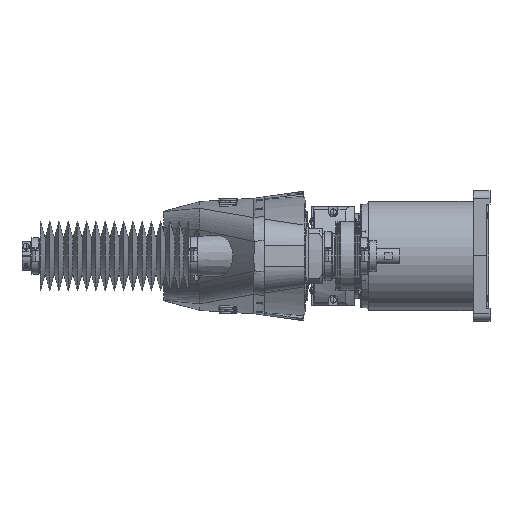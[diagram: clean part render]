
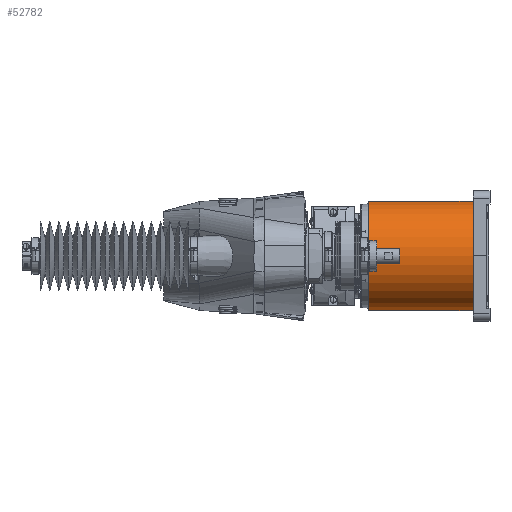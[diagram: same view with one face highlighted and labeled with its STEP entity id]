
A CAD part, left-side view. The second image highlights one B-rep face of the part: STEP entity #52782.
In plain terms, the highlighted cylindrical face has radius 71 mm (diameter 142 mm), a partial arc.
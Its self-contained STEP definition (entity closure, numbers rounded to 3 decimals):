
#1979 = CARTESIAN_POINT ( 'NONE',  ( 0., 22., -71. ) ) ;
#2504 = CARTESIAN_POINT ( 'NONE',  ( 0., 157.5, 71. ) ) ;
#3046 = AXIS2_PLACEMENT_3D ( 'NONE', #5941, #26471, #72400 ) ;
#3113 = CIRCLE ( 'NONE', #110241, 71. ) ;
#4267 = VERTEX_POINT ( 'NONE', #2504 ) ;
#5941 = CARTESIAN_POINT ( 'NONE',  ( 0., 166.5, 0. ) ) ;
#11919 = EDGE_CURVE ( 'NONE', #4267, #13351, #105276, .T. ) ;
#13351 = VERTEX_POINT ( 'NONE', #119042 ) ;
#14780 = VERTEX_POINT ( 'NONE', #49928 ) ;
#17435 = EDGE_LOOP ( 'NONE', ( #83261, #85808, #101157, #82412 ) ) ;
#26471 = DIRECTION ( 'NONE',  ( 0., -1., 0. ) ) ;
#28201 = CARTESIAN_POINT ( 'NONE',  ( 0., 157.5, 0. ) ) ;
#33347 = VERTEX_POINT ( 'NONE', #1979 ) ;
#37480 = EDGE_CURVE ( 'NONE', #14780, #33347, #50609, .T. ) ;
#45709 = FACE_OUTER_BOUND ( 'NONE', #17435, .T. ) ;
#49928 = CARTESIAN_POINT ( 'NONE',  ( 0., 157.5, -71. ) ) ;
#50207 = DIRECTION ( 'NONE',  ( 0., -1., 0. ) ) ;
#50609 = LINE ( 'NONE', #70397, #68775 ) ;
#51338 = CIRCLE ( 'NONE', #98864, 71. ) ;
#52782 = ADVANCED_FACE ( 'NONE', ( #45709 ), #81681, .T. ) ;
#59893 = EDGE_CURVE ( 'NONE', #14780, #4267, #51338, .T. ) ;
#66046 = DIRECTION ( 'NONE',  ( -1., 0., 0. ) ) ;
#66656 = DIRECTION ( 'NONE',  ( 0., 1., 0. ) ) ;
#67576 = DIRECTION ( 'NONE',  ( 0.166, 0., 0.986 ) ) ;
#68767 = CARTESIAN_POINT ( 'NONE',  ( 0., 22., 0. ) ) ;
#68775 = VECTOR ( 'NONE', #88431, 1000. ) ;
#70397 = CARTESIAN_POINT ( 'NONE',  ( 0., 166.5, -71. ) ) ;
#72400 = DIRECTION ( 'NONE',  ( 0., 0., -1. ) ) ;
#81681 = CYLINDRICAL_SURFACE ( 'NONE', #3046, 71. ) ;
#82412 = ORIENTED_EDGE ( 'NONE', *, *, #86907, .F. ) ;
#82644 = VECTOR ( 'NONE', #103453, 1000. ) ;
#83261 = ORIENTED_EDGE ( 'NONE', *, *, #11919, .F. ) ;
#85808 = ORIENTED_EDGE ( 'NONE', *, *, #59893, .F. ) ;
#86907 = EDGE_CURVE ( 'NONE', #13351, #33347, #3113, .T. ) ;
#88431 = DIRECTION ( 'NONE',  ( 0., -1., 0. ) ) ;
#93490 = CARTESIAN_POINT ( 'NONE',  ( 0., 166.5, 71. ) ) ;
#98864 = AXIS2_PLACEMENT_3D ( 'NONE', #28201, #66656, #66046 ) ;
#101157 = ORIENTED_EDGE ( 'NONE', *, *, #37480, .T. ) ;
#103453 = DIRECTION ( 'NONE',  ( 0., -1., 0. ) ) ;
#105276 = LINE ( 'NONE', #93490, #82644 ) ;
#110241 = AXIS2_PLACEMENT_3D ( 'NONE', #68767, #50207, #67576 ) ;
#119042 = CARTESIAN_POINT ( 'NONE',  ( 0., 22., 71. ) ) ;
